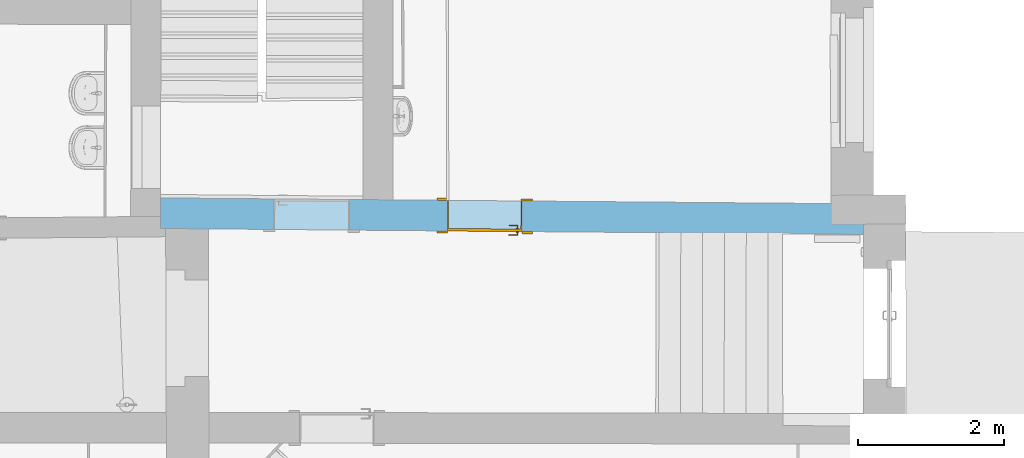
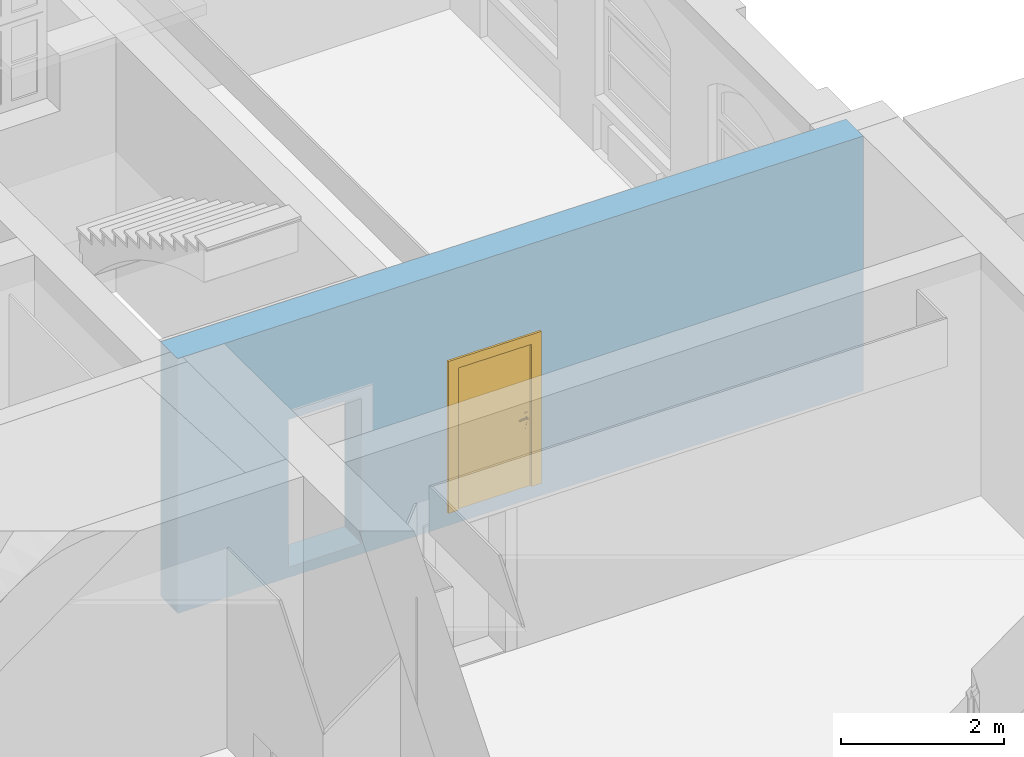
# One storey, part 86 of 158: 1 door, 2 openings, plus 1 element that does not belong to this part.
"""IFC2X3 building model written with IfcOpenShell, lengths in metres."""

from ifc_helpers import new_model, entity, si_unit, converted_unit, derived_unit, money_unit, direction, frame, origin_with_axes, origin_2d_with_axis, place, context, subcontext, project, spatial, polyline, rectangle, outline, extrude, open_shell, faceted_brep, surface_model, material, layer, layer_set, layer_usage, type_object, element, fill, save


model = new_model("IFC2X3")

# Units and contexts
model_context = context("Model", 3, precision=1e-05, world=origin_with_axes(), true_north=direction((0.0, 1.0)))
body_context = subcontext(model_context, "Body", "Model", "MODEL_VIEW")
ifc_project = project(units=[si_unit("LENGTHUNIT", "METRE"), si_unit("AREAUNIT", "SQUARE_METRE"), si_unit("VOLUMEUNIT", "CUBIC_METRE"), converted_unit("PLANEANGLEUNIT", "DEGREE", entity("IfcPlaneAngleMeasure", 0.0174532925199), si_unit("PLANEANGLEUNIT", "RADIAN"), dimensions=[0, 0, 0, 0, 0, 0, 0]), money_unit("EUR"), converted_unit("TIMEUNIT", "Year", entity("IfcTimeMeasure", 31556926.0), si_unit("TIMEUNIT", "SECOND"), dimensions=[0, 0, 1, 0, 0, 0, 0]), si_unit("MASSUNIT", "GRAM", prefix="KILO"), si_unit("THERMODYNAMICTEMPERATUREUNIT", "DEGREE_CELSIUS"), si_unit("LUMINOUSINTENSITYUNIT", "LUMEN"), si_unit("ENERGYUNIT", "JOULE", prefix="MEGA"), derived_unit("THERMALCONDUCTANCEUNIT", [(si_unit("POWERUNIT", "WATT"), 1), (si_unit("LENGTHUNIT", "METRE"), -1), (si_unit("THERMODYNAMICTEMPERATUREUNIT", "KELVIN"), -1)]), derived_unit("SPECIFICHEATCAPACITYUNIT", [(si_unit("ENERGYUNIT", "JOULE"), 1), (si_unit("MASSUNIT", "GRAM", prefix="KILO"), -1), (si_unit("THERMODYNAMICTEMPERATUREUNIT", "KELVIN"), -1)]), derived_unit("MASSDENSITYUNIT", [(si_unit("MASSUNIT", "GRAM", prefix="KILO"), 1), (si_unit("VOLUMEUNIT", "CUBIC_METRE"), -1)])], contexts=[model_context])

# Site, building, storey
site_placement = place(None, origin_with_axes())
site = spatial("IfcSite", under=ifc_project, at=site_placement, Name="Gelände", CompositionType="ELEMENT")
building_placement = place(site_placement, origin_with_axes())
building = spatial("IfcBuilding", under=site, at=building_placement, Name="Gebäude", CompositionType="ELEMENT")
storey_placement = place(building_placement, origin_with_axes())
storey = spatial("IfcBuildingStorey", under=building, at=storey_placement, Name="ERDGESCHOSS", CompositionType="ELEMENT", Elevation=0.0)

# Wall, openings, door
ifc_material = material(Name="05_ALLGEMEIN - TRAGENDE BAUTEILE")
ifc_layer = layer(ifc_material, 0.42, ventilated="UNKNOWN")
ifc_layer_set = layer_set([ifc_layer], Name="05_ALLGEMEIN - TRAGENDE BAUTEILE 0.42")
ifc_layer_usage = layer_usage(ifc_layer_set, "AXIS2", "NEGATIVE", 0.42)
wall_type = type_object("IfcWallType", Name="05_ALLGEMEIN - TRAGENDE BAUTEILE 420", PredefinedType="ELEMENTEDWALL")
wall_placement = place(storey_placement, frame((21.8936762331, 19.3427264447, -0.210000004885), z_axis=(0.0, 0.0, 1.0), x_axis=(0.999964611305, -0.00841285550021, 0.0)))
wall = element("IfcWallStandardCase", 1, at=wall_placement, inside=storey, type_object=wall_type, material=ifc_layer_usage, Name="Wand-039", ObjectType="ELEMENTEDWALL", context=body_context, shape_type="SweptSolid", body=[
    extrude(outline(polyline([(0.0, 0.0), (9.64700059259, 0.0), (9.64378739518, 0.42), (-0.00298585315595, 0.42), (0.0, 0.0)])), origin_with_axes(), (0.0, 0.0, 1.0), 3.81000000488),
])
opening_1_placement = place(wall_placement, frame((2.07098933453, 0.0, 0.156582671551), z_axis=(0.0, 0.0, 1.0), x_axis=(1.0, 0.0, 0.0)))
element("IfcOpeningElement", 2, at=opening_1_placement, cuts=wall, Name="Tür-022", context=body_context, shape_type="SweptSolid", body=[
    extrude(rectangle(XDim=1.02822560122, YDim=2.203152, at=origin_2d_with_axis()), frame((0.0, 0.42, 1.101576), z_axis=(0.0, -1.0, 0.0), x_axis=(1.0, 0.0, 0.0)), (0.0, 0.0, 1.0), 1.26),
])
opening_2_placement = place(wall_placement, frame((4.44709559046, 0.0, 0.205703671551), z_axis=(0.0, 0.0, 1.0), x_axis=(1.0, 0.0, 0.0)))
opening_2 = element("IfcOpeningElement", 3, at=opening_2_placement, cuts=wall, Name="Tür-022", context=body_context, shape_type="SweptSolid", body=[
    extrude(rectangle(XDim=1.0219033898, YDim=2.127002, at=origin_2d_with_axis()), frame((0.0, 0.42, 1.063501), z_axis=(0.0, -1.0, 0.0), x_axis=(-1.0, 0.0, 0.0)), (0.0, 0.0, 1.0), 1.26),
])
door_style = type_object("IfcDoorStyle", Name="Blockrahmentür 1-Fl 25", ConstructionType="NOTDEFINED", OperationType="SINGLE_SWING_RIGHT", ParameterTakesPrecedence=False, Sizeable=False)
door_placement = place(opening_2_placement, frame((0.495951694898, 0.0, 0.0), z_axis=(0.0, 0.0, 1.0), x_axis=(-1.0, 0.0, 0.0)))
door = element("IfcDoor", 4, at=door_placement, inside=storey, type_object=door_style, Name="Tür-022", ObjectType="NOTDEFINED", OverallHeight=2.127, OverallWidth=1.0219, context=body_context, shape_type="SurfaceModel", body=[
    faceted_brep([(1.0069033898, -0.45, 0.0), (1.0069033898, -0.035, 0.0), (1.0069033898, -0.035, 2.127002), (1.0069033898, -0.45, 2.127002), (0.991903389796, -0.45, 0.0), (0.991903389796, -0.035, 0.0), (0.991903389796, -0.035, 2.112002), (0.611051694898, -0.035, 2.112002), (0.496051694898, -0.035, 2.112002), (0.0, -0.035, 2.112002), (0.0, -0.035, 0.0), (-0.015, -0.035, 0.0), (-0.015, -0.035, 2.127002), (-0.015, -0.45, 2.127002), (-0.015, -0.45, 0.0), (0.0, -0.45, 0.0), (0.0, -0.45, 2.112002), (0.496051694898, -0.45, 2.112002), (0.611051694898, -0.45, 2.112002), (0.991903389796, -0.45, 2.112002)], [[[0, 1, 2, 3]], [[4, 5, 1, 0]], [[1, 5, 6, 7, 8, 9, 10, 11, 12, 2]], [[3, 2, 12, 13]], [[0, 3, 13, 14, 15, 16, 17, 18, 19, 4]], [[19, 6, 5, 4]], [[18, 7, 6, 19]], [[17, 8, 7, 18]], [[16, 9, 8, 17]], [[15, 10, 9, 16]], [[14, 11, 10, 15]], [[13, 12, 11, 14]]]),
    surface_model("IfcShellBasedSurfaceModel", [(1.0069033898, -0.035, 0.0), (1.0069033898, 0.03, 0.0), (1.0069033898, 0.03, 2.127002), (1.0069033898, -0.035, 2.127002), (1.0069033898, -0.035, 2.127002), (1.0069033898, 0.03, 2.127002), (0.596051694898, 0.03, 2.127002), (0.511051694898, 0.03, 2.127002), (-0.015, 0.03, 2.127002), (-0.015, 0.03, 2.127002), (-0.015, -0.035, 2.127002), (0.511051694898, -0.035, 2.127002), (0.596051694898, -0.035, 2.127002), (-0.015, -0.035, 2.127002), (-0.015, -0.035, 0.0), (-0.015, 0.03, 0.0)], [open_shell([[[0, 1, 2, 3]], [[4, 5, 1, 0]], [[6, 7, 8, 2]], [[3, 2, 9, 10]], [[10, 11, 12, 4]], [[12, 6, 5, 4]], [[11, 7, 6, 12]], [[13, 8, 7, 11]], [[14, 15, 8, 13]], [[10, 9, 15, 14]]])]),
    faceted_brep([(1.1519033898, -0.45, 0.0), (1.1519033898, -0.42, 0.0), (1.1519033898, -0.42, 2.272002), (1.1519033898, -0.45, 2.272002), (1.0069033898, -0.45, 0.0), (1.0069033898, -0.42, 0.0), (1.0069033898, -0.42, 2.127002), (-0.015, -0.42, 2.127002), (-0.015, -0.42, 0.0), (-0.16, -0.42, 0.0), (-0.16, -0.42, 2.272002), (-0.16, -0.45, 2.272002), (-0.16, -0.45, 0.0), (-0.015, -0.45, 0.0), (-0.015, -0.45, 2.127002), (1.0069033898, -0.45, 2.127002)], [[[0, 1, 2, 3]], [[4, 5, 1, 0]], [[1, 5, 6, 7, 8, 9, 10, 2]], [[3, 2, 10, 11]], [[0, 3, 11, 12, 13, 14, 15, 4]], [[15, 6, 5, 4]], [[14, 7, 6, 15]], [[13, 8, 7, 14]], [[12, 9, 8, 13]], [[11, 10, 9, 12]]]),
    faceted_brep([(1.1519033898, 0.0, 0.0), (1.1519033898, 0.03, 0.0), (1.1519033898, 0.03, 2.272002), (1.1519033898, 0.0, 2.272002), (1.0069033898, 0.0, 0.0), (1.0069033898, 0.03, 0.0), (1.0069033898, 0.03, 2.127002), (-0.015, 0.03, 2.127002), (-0.015, 0.03, 0.0), (-0.16, 0.03, 0.0), (-0.16, 0.03, 2.272002), (-0.16, 0.0, 2.272002), (-0.16, 0.0, 0.0), (-0.015, 0.0, 0.0), (-0.015, 0.0, 2.127002), (1.0069033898, 0.0, 2.127002)], [[[0, 1, 2, 3]], [[4, 5, 1, 0]], [[1, 5, 6, 7, 8, 9, 10, 2]], [[3, 2, 10, 11]], [[0, 3, 11, 12, 13, 14, 15, 4]], [[15, 6, 5, 4]], [[14, 7, 6, 15]], [[13, 8, 7, 14]], [[12, 9, 8, 13]], [[11, 10, 9, 12]]]),
    faceted_brep([(1.0069033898, 0.002, 0.0), (-0.015, 0.002, 0.0), (-0.015, 0.002, 2.127002), (1.0069033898, 0.002, 2.127002), (1.0069033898, -0.035, 0.0), (-0.015, -0.035, 0.0), (-0.015, -0.035, 2.127002), (1.0069033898, -0.035, 2.127002)], [[[0, 1, 2, 3]], [[1, 0, 4, 5]], [[2, 1, 5, 6]], [[3, 2, 6, 7]], [[0, 3, 7, 4]], [[5, 4, 7, 6]]]),
    faceted_brep([(0.0402977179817, -0.075, 1.05647213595), (0.045, -0.075, 1.058), (0.045, -0.055, 1.058), (0.0402977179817, -0.055, 1.05647213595), (0.0373915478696, -0.075, 1.05247213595), (0.0373915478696, -0.075, 1.04752786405), (0.0402977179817, -0.075, 1.04352786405), (0.045, -0.075, 1.042), (0.0497022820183, -0.075, 1.04352786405), (0.0526084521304, -0.075, 1.04752786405), (0.0526084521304, -0.075, 1.05247213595), (0.0497022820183, -0.075, 1.05647213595), (0.0497022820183, -0.055, 1.05647213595), (0.045, -0.053, 1.06), (0.0391221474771, -0.053, 1.05809016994), (0.0373915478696, -0.055, 1.05247213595), (0.0373915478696, -0.055, 1.04752786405), (0.0402977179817, -0.055, 1.04352786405), (0.045, -0.055, 1.042), (0.0497022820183, -0.055, 1.04352786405), (0.0526084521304, -0.055, 1.04752786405), (0.0526084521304, -0.055, 1.05247213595), (0.0508778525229, -0.053, 1.05809016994), (0.045, -0.045, 1.06), (0.0391221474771, -0.045, 1.05809016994), (0.035489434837, -0.053, 1.05309016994), (0.035489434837, -0.053, 1.04690983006), (0.0391221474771, -0.053, 1.04190983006), (0.045, -0.053, 1.04), (0.0508778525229, -0.053, 1.04190983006), (0.0545105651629, -0.053, 1.04690983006), (0.0545105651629, -0.053, 1.05309016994), (0.0508778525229, -0.045, 1.05809016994), (0.0545105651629, -0.045, 1.05309016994), (0.0545105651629, -0.045, 1.04690983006), (0.0508778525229, -0.045, 1.04190983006), (0.045, -0.045, 1.04), (0.0391221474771, -0.045, 1.04190983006), (0.035489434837, -0.045, 1.04690983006), (0.035489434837, -0.045, 1.05309016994)], [[[0, 1, 2, 3]], [[1, 0, 4, 5, 6, 7, 8, 9, 10, 11]], [[1, 11, 12, 2]], [[3, 2, 13, 14]], [[4, 0, 3, 15]], [[5, 4, 15, 16]], [[6, 5, 16, 17]], [[7, 6, 17, 18]], [[8, 7, 18, 19]], [[9, 8, 19, 20]], [[10, 9, 20, 21]], [[11, 10, 21, 12]], [[2, 12, 22, 13]], [[14, 13, 23, 24]], [[15, 3, 14, 25]], [[16, 15, 25, 26]], [[17, 16, 26, 27]], [[18, 17, 27, 28]], [[19, 18, 28, 29]], [[20, 19, 29, 30]], [[21, 20, 30, 31]], [[12, 21, 31, 22]], [[13, 22, 32, 23]], [[23, 32, 33, 34, 35, 36, 37, 38, 39, 24]], [[25, 14, 24, 39]], [[26, 25, 39, 38]], [[27, 26, 38, 37]], [[28, 27, 37, 36]], [[29, 28, 36, 35]], [[30, 29, 35, 34]], [[31, 30, 34, 33]], [[22, 31, 33, 32]]]),
    faceted_brep([(0.0571883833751, -0.045, 1.11759695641), (0.0494435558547, -0.045, 1.12195567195), (0.0405564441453, -0.045, 1.12195567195), (0.0328116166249, -0.045, 1.11759695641), (0.0282, -0.045, 1.11), (0.0225, -0.045, 1.11), (0.0225, -0.045, 0.89), (0.0282, -0.045, 0.89), (0.0328116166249, -0.045, 0.882403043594), (0.0405564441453, -0.045, 0.878044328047), (0.0494435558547, -0.045, 0.878044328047), (0.0571883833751, -0.045, 0.882403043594), (0.0618, -0.045, 0.89), (0.0675, -0.045, 0.89), (0.0675, -0.045, 1.11), (0.0618, -0.045, 1.11), (0.045, -0.045, 0.967425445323), (0.0503751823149, -0.045, 0.965143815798), (0.0524678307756, -0.045, 0.959692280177), (0.05, -0.045, 0.9544), (0.05, -0.045, 0.9375), (0.0485355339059, -0.045, 0.933964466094), (0.045, -0.045, 0.9325), (0.0414644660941, -0.045, 0.933964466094), (0.04, -0.045, 0.9375), (0.04, -0.045, 0.9544), (0.0375321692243, -0.045, 0.959692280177), (0.039624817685, -0.045, 0.965143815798), (0.0571883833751, -0.035, 1.11759695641), (0.0494435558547, -0.035, 1.12195567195), (0.0405564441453, -0.035, 1.12195567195), (0.0328116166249, -0.035, 1.11759695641), (0.0282, -0.035, 1.11), (0.0225, -0.035, 1.11), (0.0225, -0.035, 0.89), (0.0282, -0.035, 0.89), (0.0328116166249, -0.035, 0.882403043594), (0.0405564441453, -0.035, 0.878044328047), (0.0494435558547, -0.035, 0.878044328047), (0.0571883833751, -0.035, 0.882403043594), (0.0618, -0.035, 0.89), (0.0675, -0.035, 0.89), (0.0675, -0.035, 1.11), (0.0618, -0.035, 1.11), (0.045, -0.035, 0.967425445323), (0.0503751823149, -0.035, 0.965143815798), (0.0524678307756, -0.035, 0.959692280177), (0.05, -0.035, 0.9544), (0.05, -0.035, 0.9375), (0.0485355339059, -0.035, 0.933964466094), (0.045, -0.035, 0.9325), (0.0414644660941, -0.035, 0.933964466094), (0.04, -0.035, 0.9375), (0.04, -0.035, 0.9544), (0.0375321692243, -0.035, 0.959692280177), (0.039624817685, -0.035, 0.965143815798)], [[[0, 1, 2, 3, 4, 5, 6, 7, 8, 9, 10, 11, 12, 13, 14, 15], [16, 17, 18, 19, 20, 21, 22, 23, 24, 25, 26, 27]], [[1, 0, 28, 29]], [[2, 1, 29, 30]], [[3, 2, 30, 31]], [[4, 3, 31, 32]], [[5, 4, 32, 33]], [[6, 5, 33, 34]], [[7, 6, 34, 35]], [[8, 7, 35, 36]], [[9, 8, 36, 37]], [[10, 9, 37, 38]], [[11, 10, 38, 39]], [[12, 11, 39, 40]], [[13, 12, 40, 41]], [[14, 13, 41, 42]], [[15, 14, 42, 43]], [[0, 15, 43, 28]], [[17, 16, 44, 45]], [[18, 17, 45, 46]], [[19, 18, 46, 47]], [[19, 47, 48, 20]], [[20, 48, 49, 21]], [[21, 49, 50, 22]], [[22, 50, 51, 23]], [[23, 51, 52, 24]], [[53, 25, 24, 52]], [[26, 25, 53, 54]], [[27, 26, 54, 55]], [[16, 27, 55, 44]], [[40, 39, 38, 37, 36, 35, 34, 33, 32, 31, 30, 29, 28, 43, 42, 41], [54, 53, 52, 51, 50, 49, 48, 47, 46, 45, 44, 55]]]),
    faceted_brep([(0.159253, -0.075, 1.057158), (0.159253, -0.09, 1.057158), (0.159254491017, -0.09, 1.05719388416), (0.159254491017, -0.075, 1.05719388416), (0.132225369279, -0.075, 1.06432652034), (0.132225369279, -0.09, 1.06432652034), (0.104397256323, -0.09, 1.06706086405), (0.0764912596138, -0.09, 1.06529002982), (0.049232, -0.09, 1.05906), (0.0428294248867, -0.09, 1.05976125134), (0.0373273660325, -0.09, 1.05641280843), (0.0350084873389, -0.09, 1.05040385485), (0.0368348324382, -0.09, 1.04422735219), (0.0420486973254, -0.09, 1.04044577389), (0.0484869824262, -0.09, 1.04062800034), (0.0534786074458, -0.09, 1.04469843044), (0.053458, -0.09, 1.044666), (0.0787467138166, -0.09, 1.05019878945), (0.104589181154, -0.09, 1.05171460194), (0.130351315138, -0.09, 1.04917624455), (0.155401, -0.09, 1.042646), (0.160944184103, -0.09, 1.04356849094), (0.16430572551, -0.09, 1.04807159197), (0.163614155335, -0.09, 1.05364829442), (0.163614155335, -0.075, 1.05364829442), (0.16430572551, -0.075, 1.04807159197), (0.160944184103, -0.075, 1.04356849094), (0.155401, -0.075, 1.042646), (0.130351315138, -0.075, 1.04917624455), (0.104589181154, -0.075, 1.05171460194), (0.0787467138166, -0.075, 1.05019878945), (0.053458, -0.075, 1.044666), (0.0534786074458, -0.075, 1.04469843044), (0.0484869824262, -0.075, 1.04062800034), (0.0420486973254, -0.075, 1.04044577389), (0.0368348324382, -0.075, 1.04422735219), (0.0350084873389, -0.075, 1.05040385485), (0.0373273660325, -0.075, 1.05641280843), (0.0428294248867, -0.075, 1.05976125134), (0.049232, -0.075, 1.05906), (0.0764912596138, -0.075, 1.06529002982), (0.104397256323, -0.075, 1.06706086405)], [[[0, 1, 2, 3]], [[4, 5, 1, 0]], [[1, 5, 6, 7, 8, 9, 10, 11, 12, 13, 14, 15, 16, 17, 18, 19, 20, 21, 22, 23, 2]], [[3, 2, 23, 24]], [[0, 3, 24, 25, 26, 27, 28, 29, 30, 31, 32, 33, 34, 35, 36, 37, 38, 39, 40, 41, 4]], [[41, 6, 5, 4]], [[40, 7, 6, 41]], [[39, 8, 7, 40]], [[38, 9, 8, 39]], [[37, 10, 9, 38]], [[36, 11, 10, 37]], [[35, 12, 11, 36]], [[34, 13, 12, 35]], [[33, 14, 13, 34]], [[32, 15, 14, 33]], [[31, 16, 15, 32]], [[30, 17, 16, 31]], [[29, 18, 17, 30]], [[28, 19, 18, 29]], [[27, 20, 19, 28]], [[26, 21, 20, 27]], [[25, 22, 21, 26]], [[24, 23, 22, 25]]]),
    faceted_brep([(0.0402977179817, 0.042, 1.05647213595), (0.0402977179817, 0.022, 1.05647213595), (0.045, 0.022, 1.058), (0.045, 0.042, 1.058), (0.0373915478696, 0.042, 1.05247213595), (0.0373915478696, 0.022, 1.05247213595), (0.0391221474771, 0.02, 1.05809016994), (0.045, 0.02, 1.06), (0.0497022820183, 0.022, 1.05647213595), (0.0497022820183, 0.042, 1.05647213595), (0.0526084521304, 0.042, 1.05247213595), (0.0526084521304, 0.042, 1.04752786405), (0.0497022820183, 0.042, 1.04352786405), (0.045, 0.042, 1.042), (0.0402977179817, 0.042, 1.04352786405), (0.0373915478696, 0.042, 1.04752786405), (0.0373915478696, 0.022, 1.04752786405), (0.035489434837, 0.02, 1.05309016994), (0.0391221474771, 0.012, 1.05809016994), (0.045, 0.012, 1.06), (0.0508778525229, 0.02, 1.05809016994), (0.0526084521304, 0.022, 1.05247213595), (0.0526084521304, 0.022, 1.04752786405), (0.0497022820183, 0.022, 1.04352786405), (0.045, 0.022, 1.042), (0.0402977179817, 0.022, 1.04352786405), (0.035489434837, 0.02, 1.04690983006), (0.035489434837, 0.012, 1.05309016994), (0.035489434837, 0.012, 1.04690983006), (0.0391221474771, 0.012, 1.04190983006), (0.045, 0.012, 1.04), (0.0508778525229, 0.012, 1.04190983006), (0.054510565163, 0.012, 1.04690983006), (0.054510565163, 0.012, 1.05309016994), (0.0508778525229, 0.012, 1.05809016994), (0.0545105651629, 0.02, 1.05309016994), (0.0545105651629, 0.02, 1.04690983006), (0.0508778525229, 0.02, 1.04190983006), (0.045, 0.02, 1.04), (0.0391221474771, 0.02, 1.04190983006)], [[[0, 1, 2, 3]], [[4, 5, 1, 0]], [[1, 6, 7, 2]], [[3, 2, 8, 9]], [[3, 9, 10, 11, 12, 13, 14, 15, 4, 0]], [[15, 16, 5, 4]], [[5, 17, 6, 1]], [[6, 18, 19, 7]], [[2, 7, 20, 8]], [[9, 8, 21, 10]], [[10, 21, 22, 11]], [[11, 22, 23, 12]], [[12, 23, 24, 13]], [[13, 24, 25, 14]], [[14, 25, 16, 15]], [[16, 26, 17, 5]], [[17, 27, 18, 6]], [[19, 18, 27, 28, 29, 30, 31, 32, 33, 34]], [[7, 19, 34, 20]], [[8, 20, 35, 21]], [[21, 35, 36, 22]], [[22, 36, 37, 23]], [[23, 37, 38, 24]], [[24, 38, 39, 25]], [[25, 39, 26, 16]], [[26, 28, 27, 17]], [[39, 29, 28, 26]], [[38, 30, 29, 39]], [[37, 31, 30, 38]], [[36, 32, 31, 37]], [[35, 33, 32, 36]], [[20, 34, 33, 35]]]),
    faceted_brep([(0.0571883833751, 0.002, 1.11759695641), (0.0494435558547, 0.002, 1.12195567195), (0.0405564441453, 0.00199999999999, 1.12195567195), (0.0328116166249, 0.002, 1.11759695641), (0.0282, 0.002, 1.11), (0.0225, 0.002, 1.11), (0.0225, 0.002, 0.89), (0.0282, 0.002, 0.89), (0.0328116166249, 0.002, 0.882403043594), (0.0405564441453, 0.00199999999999, 0.878044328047), (0.0494435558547, 0.002, 0.878044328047), (0.0571883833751, 0.002, 0.882403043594), (0.0618, 0.002, 0.89), (0.0675, 0.002, 0.89), (0.0675, 0.002, 1.11), (0.0618, 0.002, 1.11), (0.045, 0.002, 0.967425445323), (0.0503751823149, 0.002, 0.965143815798), (0.0524678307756, 0.002, 0.959692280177), (0.05, 0.00199999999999, 0.9544), (0.05, 0.00199999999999, 0.9375), (0.0485355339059, 0.002, 0.933964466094), (0.045, 0.002, 0.9325), (0.0414644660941, 0.002, 0.933964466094), (0.04, 0.002, 0.9375), (0.04, 0.002, 0.9544), (0.0375321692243, 0.002, 0.959692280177), (0.039624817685, 0.00199999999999, 0.965143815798), (0.0494435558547, 0.012, 1.12195567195), (0.0571883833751, 0.012, 1.11759695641), (0.0405564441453, 0.012, 1.12195567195), (0.0328116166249, 0.012, 1.11759695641), (0.0282, 0.012, 1.11), (0.0225, 0.012, 1.11), (0.0225, 0.012, 0.89), (0.0282, 0.012, 0.89), (0.0328116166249, 0.012, 0.882403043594), (0.0405564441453, 0.012, 0.878044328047), (0.0494435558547, 0.012, 0.878044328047), (0.0571883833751, 0.012, 0.882403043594), (0.0618, 0.012, 0.89), (0.0675, 0.012, 0.89), (0.0675, 0.012, 1.11), (0.0618, 0.012, 1.11), (0.045, 0.012, 0.967425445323), (0.050375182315, 0.012, 0.965143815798), (0.0524678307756, 0.012, 0.959692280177), (0.05, 0.012, 0.9544), (0.05, 0.012, 0.9375), (0.0485355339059, 0.012, 0.933964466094), (0.045, 0.012, 0.9325), (0.0414644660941, 0.012, 0.933964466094), (0.04, 0.012, 0.9375), (0.04, 0.012, 0.9544), (0.0375321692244, 0.012, 0.959692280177), (0.039624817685, 0.012, 0.965143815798)], [[[0, 1, 2, 3, 4, 5, 6, 7, 8, 9, 10, 11, 12, 13, 14, 15], [16, 17, 18, 19, 20, 21, 22, 23, 24, 25, 26, 27]], [[28, 1, 0, 29]], [[30, 2, 1, 28]], [[31, 3, 2, 30]], [[32, 4, 3, 31]], [[33, 5, 4, 32]], [[34, 6, 5, 33]], [[35, 7, 6, 34]], [[36, 8, 7, 35]], [[37, 9, 8, 36]], [[38, 10, 9, 37]], [[39, 11, 10, 38]], [[40, 12, 11, 39]], [[41, 13, 12, 40]], [[42, 14, 13, 41]], [[43, 15, 14, 42]], [[29, 0, 15, 43]], [[17, 16, 44, 45]], [[18, 17, 45, 46]], [[19, 18, 46, 47]], [[19, 47, 48, 20]], [[20, 48, 49, 21]], [[21, 49, 50, 22]], [[22, 50, 51, 23]], [[23, 51, 52, 24]], [[53, 25, 24, 52]], [[26, 25, 53, 54]], [[27, 26, 54, 55]], [[16, 27, 55, 44]], [[40, 39, 38, 37, 36, 35, 34, 33, 32, 31, 30, 28, 29, 43, 42, 41], [54, 53, 52, 51, 50, 49, 48, 47, 46, 45, 44, 55]]]),
    faceted_brep([(0.159253, 0.042, 1.057158), (0.159254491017, 0.042, 1.05719388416), (0.159254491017, 0.057, 1.05719388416), (0.159253, 0.057, 1.057158), (0.132225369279, 0.042, 1.06432652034), (0.104397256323, 0.042, 1.06706086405), (0.0764912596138, 0.042, 1.06529002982), (0.049232, 0.042, 1.05906), (0.0428294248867, 0.042, 1.05976125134), (0.0373273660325, 0.042, 1.05641280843), (0.0350084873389, 0.042, 1.05040385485), (0.0368348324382, 0.042, 1.04422735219), (0.0420486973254, 0.042, 1.04044577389), (0.0484869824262, 0.042, 1.04062800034), (0.0534786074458, 0.042, 1.04469843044), (0.053458, 0.042, 1.044666), (0.0787467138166, 0.042, 1.05019878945), (0.104589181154, 0.042, 1.05171460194), (0.130351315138, 0.042, 1.04917624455), (0.155401, 0.042, 1.042646), (0.160944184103, 0.042, 1.04356849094), (0.16430572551, 0.042, 1.04807159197), (0.163614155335, 0.042, 1.05364829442), (0.163614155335, 0.057, 1.05364829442), (0.16430572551, 0.057, 1.04807159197), (0.160944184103, 0.057, 1.04356849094), (0.155401, 0.057, 1.042646), (0.130351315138, 0.057, 1.04917624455), (0.104589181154, 0.057, 1.05171460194), (0.0787467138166, 0.057, 1.05019878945), (0.053458, 0.057, 1.044666), (0.0534786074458, 0.057, 1.04469843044), (0.0484869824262, 0.057, 1.04062800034), (0.0420486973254, 0.057, 1.04044577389), (0.0368348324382, 0.057, 1.04422735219), (0.0350084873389, 0.057, 1.05040385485), (0.0373273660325, 0.057, 1.05641280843), (0.0428294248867, 0.057, 1.05976125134), (0.049232, 0.057, 1.05906), (0.0764912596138, 0.057, 1.06529002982), (0.104397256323, 0.057, 1.06706086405), (0.132225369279, 0.057, 1.06432652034)], [[[0, 1, 2, 3]], [[0, 4, 5, 6, 7, 8, 9, 10, 11, 12, 13, 14, 15, 16, 17, 18, 19, 20, 21, 22, 1]], [[1, 22, 23, 2]], [[3, 2, 23, 24, 25, 26, 27, 28, 29, 30, 31, 32, 33, 34, 35, 36, 37, 38, 39, 40, 41]], [[4, 0, 3, 41]], [[5, 4, 41, 40]], [[6, 5, 40, 39]], [[7, 6, 39, 38]], [[8, 7, 38, 37]], [[9, 8, 37, 36]], [[10, 9, 36, 35]], [[11, 10, 35, 34]], [[12, 11, 34, 33]], [[13, 12, 33, 32]], [[14, 13, 32, 31]], [[15, 14, 31, 30]], [[16, 15, 30, 29]], [[17, 16, 29, 28]], [[18, 17, 28, 27]], [[19, 18, 27, 26]], [[20, 19, 26, 25]], [[21, 20, 25, 24]], [[22, 21, 24, 23]]]),
])
fill(opening_2, door)

save(model, "model.ifc")
